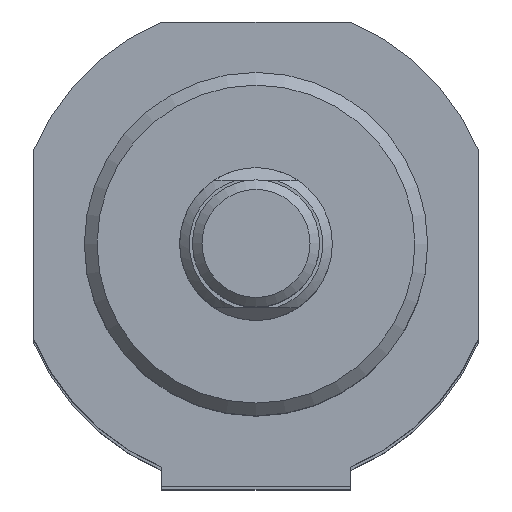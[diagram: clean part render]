
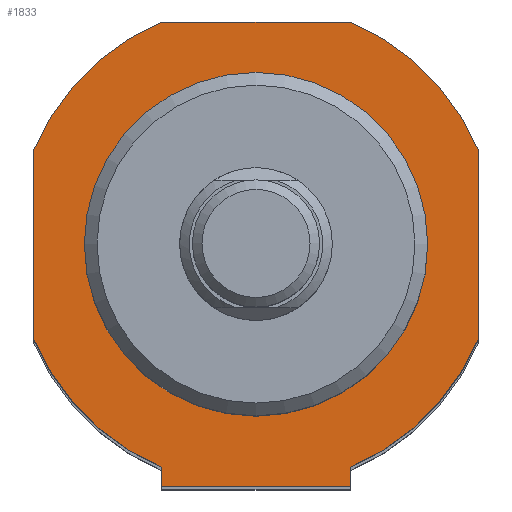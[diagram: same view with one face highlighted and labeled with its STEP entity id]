
A CAD part, top view. The second image highlights one B-rep face of the part: STEP entity #1833.
In plain terms, the highlighted planar face has unit normal (0, 0, 1).
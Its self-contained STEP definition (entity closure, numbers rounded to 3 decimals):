
#898=CARTESIAN_POINT('',(7.399,-19.0,199.));
#899=VERTEX_POINT('',#898);
#900=CARTESIAN_POINT('',(-7.399,-19.0,199.));
#901=VERTEX_POINT('',#900);
#902=CARTESIAN_POINT('',(7.399,-19.0,199.));
#903=DIRECTION('',(-1.0,0.0,0.0));
#904=VECTOR('',#903,14.799);
#905=LINE('',#902,#904);
#906=EDGE_CURVE('',#899,#901,#905,.T.);
#1054=CARTESIAN_POINT('',(-7.399,-17.5,199.));
#1055=VERTEX_POINT('',#1054);
#1069=CARTESIAN_POINT('',(-7.399,-17.5,199.));
#1070=DIRECTION('',(0.0,-1.0,0.0));
#1071=VECTOR('',#1070,1.5);
#1072=LINE('',#1069,#1071);
#1073=EDGE_CURVE('',#1055,#901,#1072,.T.);
#1085=CARTESIAN_POINT('',(7.399,-17.5,199.));
#1086=VERTEX_POINT('',#1085);
#1093=CARTESIAN_POINT('',(7.399,-17.5,199.));
#1094=DIRECTION('',(0.0,-1.0,0.0));
#1095=VECTOR('',#1094,1.5);
#1096=LINE('',#1093,#1095);
#1097=EDGE_CURVE('',#1086,#899,#1096,.T.);
#1561=CARTESIAN_POINT('',(13.5,0.,199.));
#1562=VERTEX_POINT('',#1561);
#1563=CARTESIAN_POINT('',(0.,0.,199.));
#1564=DIRECTION('',(0.0,0.0,-1.0));
#1565=DIRECTION('',(-1.0,0.0,0.0));
#1566=AXIS2_PLACEMENT_3D('',#1563,#1564,#1565);
#1567=CIRCLE('',#1566,13.5);
#1568=EDGE_CURVE('',#1562,#1562,#1567,.T.);
#1653=CARTESIAN_POINT('',(-7.399,17.5,199.));
#1654=VERTEX_POINT('',#1653);
#1655=CARTESIAN_POINT('',(7.399,17.5,199.));
#1656=VERTEX_POINT('',#1655);
#1657=CARTESIAN_POINT('',(-7.399,17.5,199.));
#1658=DIRECTION('',(1.0,0.0,0.0));
#1659=VECTOR('',#1658,14.799);
#1660=LINE('',#1657,#1659);
#1661=EDGE_CURVE('',#1654,#1656,#1660,.T.);
#1684=CARTESIAN_POINT('',(17.5,7.399,199.));
#1685=VERTEX_POINT('',#1684);
#1686=CARTESIAN_POINT('',(0.,0.,199.));
#1687=DIRECTION('',(0.,0.,-1.0));
#1688=DIRECTION('',(0.921,0.389,0.));
#1689=AXIS2_PLACEMENT_3D('',#1686,#1687,#1688);
#1690=CIRCLE('',#1689,19.0);
#1691=EDGE_CURVE('',#1656,#1685,#1690,.T.);
#1709=CARTESIAN_POINT('',(17.5,-7.399,199.));
#1710=VERTEX_POINT('',#1709);
#1711=CARTESIAN_POINT('',(17.5,7.399,199.));
#1712=DIRECTION('',(0.0,-1.0,0.0));
#1713=VECTOR('',#1712,14.799);
#1714=LINE('',#1711,#1713);
#1715=EDGE_CURVE('',#1685,#1710,#1714,.T.);
#1733=CARTESIAN_POINT('',(0.,0.,199.));
#1734=DIRECTION('',(0.,0.,-1.));
#1735=DIRECTION('',(0.389,-0.921,0.));
#1736=AXIS2_PLACEMENT_3D('',#1733,#1734,#1735);
#1737=CIRCLE('',#1736,19.0);
#1738=EDGE_CURVE('',#1710,#1086,#1737,.T.);
#1751=CARTESIAN_POINT('',(-17.5,-7.399,199.));
#1752=VERTEX_POINT('',#1751);
#1753=CARTESIAN_POINT('',(0.,0.,199.));
#1754=DIRECTION('',(0.,0.,-1.0));
#1755=DIRECTION('',(-0.921,-0.389,0.));
#1756=AXIS2_PLACEMENT_3D('',#1753,#1754,#1755);
#1757=CIRCLE('',#1756,19.0);
#1758=EDGE_CURVE('',#1055,#1752,#1757,.T.);
#1776=CARTESIAN_POINT('',(-17.5,7.399,199.));
#1777=VERTEX_POINT('',#1776);
#1778=CARTESIAN_POINT('',(-17.5,-7.399,199.));
#1779=DIRECTION('',(0.0,1.0,0.0));
#1780=VECTOR('',#1779,14.799);
#1781=LINE('',#1778,#1780);
#1782=EDGE_CURVE('',#1752,#1777,#1781,.T.);
#1800=CARTESIAN_POINT('',(0.,0.,199.));
#1801=DIRECTION('',(0.,0.,-1.));
#1802=DIRECTION('',(-0.389,0.921,0.));
#1803=AXIS2_PLACEMENT_3D('',#1800,#1801,#1802);
#1804=CIRCLE('',#1803,19.0);
#1805=EDGE_CURVE('',#1777,#1654,#1804,.T.);
#1813=CARTESIAN_POINT('',(0.,0.,199.));
#1814=DIRECTION('',(0.0,0.0,1.0));
#1815=DIRECTION('',(1.0,0.0,0.0));
#1816=AXIS2_PLACEMENT_3D('',#1813,#1814,#1815);
#1817=PLANE('',#1816);
#1818=ORIENTED_EDGE('',*,*,#1661,.F.);
#1819=ORIENTED_EDGE('',*,*,#1805,.F.);
#1820=ORIENTED_EDGE('',*,*,#1782,.F.);
#1821=ORIENTED_EDGE('',*,*,#1758,.F.);
#1822=ORIENTED_EDGE('',*,*,#1073,.T.);
#1823=ORIENTED_EDGE('',*,*,#906,.F.);
#1824=ORIENTED_EDGE('',*,*,#1097,.F.);
#1825=ORIENTED_EDGE('',*,*,#1738,.F.);
#1826=ORIENTED_EDGE('',*,*,#1715,.F.);
#1827=ORIENTED_EDGE('',*,*,#1691,.F.);
#1828=EDGE_LOOP('',(#1818,#1819,#1820,#1821,#1822,#1823,#1824,#1825,#1826,#1827));
#1829=FACE_OUTER_BOUND('',#1828,.T.);
#1830=ORIENTED_EDGE('',*,*,#1568,.T.);
#1831=EDGE_LOOP('',(#1830));
#1832=FACE_BOUND('',#1831,.T.);
#1833=ADVANCED_FACE('',(#1829,#1832),#1817,.T.);
